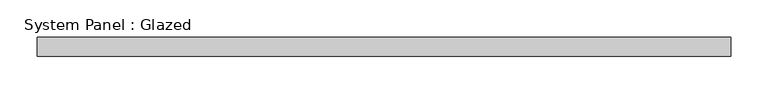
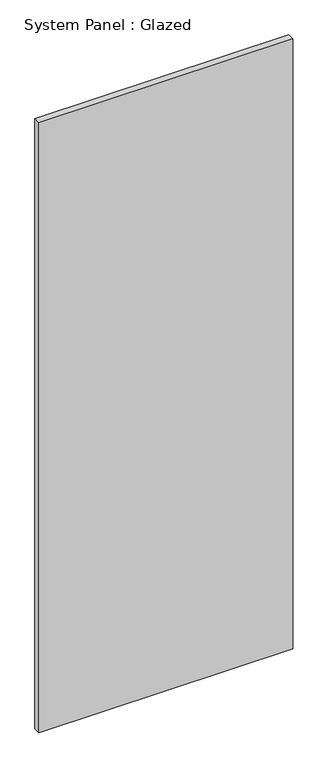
"""IFC4 building model written with IfcOpenShell, lengths in millimetres: plate geometry, System Panel : Glazed."""

from ifc_helpers import new_model, si_unit, origin, origin_with_axes, place, context, project, spatial, polyline, outline, extrude, source, transform, mapped, element, save


def system_panel_glazed_f7129221(model_context):
    return source(origin(), model_context, "Body", "SweptSolid", [
        extrude(outline(polyline([(462.5, 24.5), (-462.5, 24.5), (-462.5, 49.5), (462.5, 49.5), (462.5, 24.5)])), origin_with_axes(), (0.0, 0.0, 1.0), 2350.0),
    ])


if __name__ == "__main__":
    model = new_model("IFC4")
    model_context = context("Model", 3, world=origin())
    ifc_project = project(units=[si_unit("LENGTHUNIT", "METRE", prefix="MILLI")], contexts=[model_context])
    site = spatial("IfcSite", under=ifc_project)
    building = spatial("IfcBuilding", under=site)
    placement = place(None, origin())
    system_panel_glazed_shape = system_panel_glazed_f7129221(model_context)
    element("IfcPlate", 1, ObjectType="System Panel : Glazed", at=placement, inside=building, context=model_context, shape_type="MappedRepresentation", body=[
        mapped(system_panel_glazed_shape, transform((0.0, 0.0, 0.0), x_axis=(1.0, 0.0, 0.0), y_axis=(0.0, 1.0, 0.0), z_axis=(0.0, 0.0, 1.0))),
    ])
    save(model, "model.ifc")
